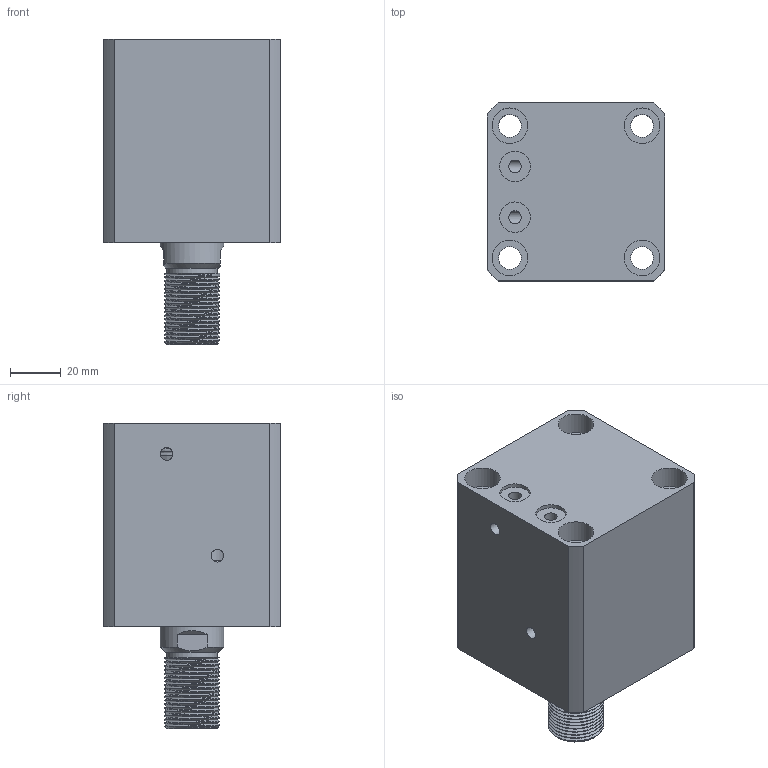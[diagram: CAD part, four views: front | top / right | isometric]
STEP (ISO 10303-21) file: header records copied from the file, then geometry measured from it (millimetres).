
FILE_DESCRIPTION(/* description */ (''),/* implementation_level */ '2;1');
FILE_NAME(/* name */ 'CHTB-sdmb40x25w.stp',/* time_stamp */ '2022-04-29T17:46:43+08:00',/* author */ (''),/* organization */ (''),/* preprocessor_version */ 'ST-DEVELOPER v16.7',/* originating_system */ 'SIEMENS PLM Software NX 12.0',/* authorisation */ '');
FILE_SCHEMA (('AUTOMOTIVE_DESIGN { 1 0 10303 214 3 1 1 1 }'));
Length unit declared in the file: millimetre
Products named in the file (1): CHTB-sdmb40x25w
Bounding box: 70 x 70 x 120 mm (x, y, z)
Volume: 352994.3 mm3; surface area: 76386.2 mm2
Topology: 3 solids, 4 shells, 504 faces, 1436 edges, 986 vertices
Faces by surface type: plane 329, extrusion 109, cylinder 42, torus 11, bspline 8, cone 5
Full cylindrical faces by diameter (mm): 4.2 x2, 5 x5, 9 x4, 12 x2, 14 x8, 20 x1, 25 x2, 29 x1, 34 x2, 40 x4, 45 x1
Entity records: 25109 total; most frequent: CARTESIAN_POINT 10012, ORIENTED_EDGE 2736, DIRECTION 2000, EDGE_CURVE 1368, VECTOR 1038, VERTEX_POINT 968, LINE 929, EDGE_LOOP 616
